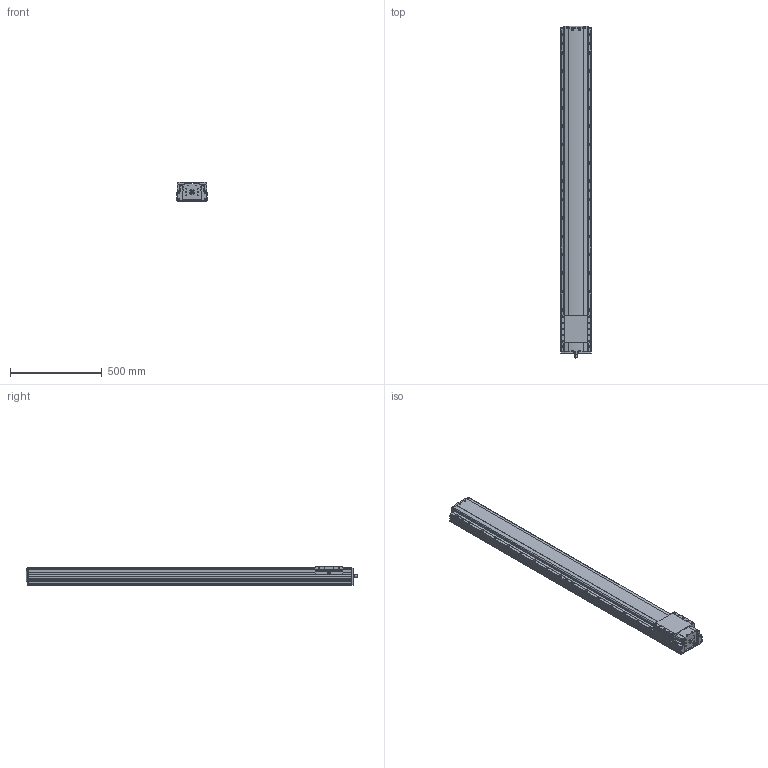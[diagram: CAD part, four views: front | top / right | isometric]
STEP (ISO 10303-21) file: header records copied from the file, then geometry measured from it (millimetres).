
FILE_DESCRIPTION(('STEP AP214'),'1');
FILE_NAME('Z:/Web/3D/PSA165/STP/PSA165-1500 (3D)/PSA165ㅁㅁ-1500.stp','2014-06-24T10:48:37',(' '),(' '),'Spatial InterOp 3D',' ',' ');
FILE_SCHEMA(('automotive_design'));
Length unit declared in the file: millimetre
Products named in the file (18): 스크루 : Round - M4.0 x 12.0; RRCV-PA160; BASE; 스크루 : Round - M4.0 x 10.0; RN15; Screw 20; SLIDE; FRCV
Bounding box: 165 x 1808.8 x 104 mm (x, y, z)
Volume: 24294217.2 mm3; surface area: 1404538.7 mm2
Topology: 18 solids, 18 shells, 2115 faces, 5765 edges, 3665 vertices
Faces by surface type: plane 1080, cylinder 753, cone 209, sphere 32, bspline 25, torus 16
Entity records: 87056 total; most frequent: CARTESIAN_POINT 16125, DIRECTION 11273, ORIENTED_EDGE 11198, EDGE_CURVE 5599, AXIS2_PLACEMENT_3D 3827, VERTEX_POINT 3665, LINE 3619, VECTOR 3619
